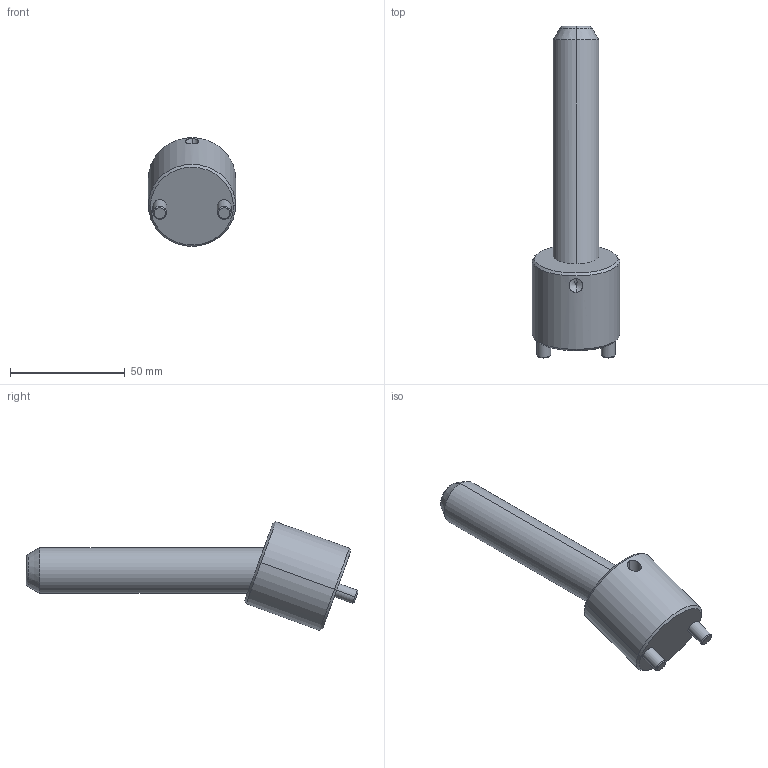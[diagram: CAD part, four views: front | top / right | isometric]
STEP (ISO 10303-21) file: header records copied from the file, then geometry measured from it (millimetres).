
FILE_DESCRIPTION(('CATIA V5 STEP Exchange'),'2;1');
FILE_NAME('C:\Users\Raffaele\Desktop\3D BOLEX\3D FILES CF BOLEX\19-INCLINED ASSEMBLY REF_CI\CI2020100.stp','2019-06-24T06:41:38+00:00',('none'),('none'),'CATIA Version 5 Release 20 GA (IN-10)','CATIA V5 STEP AP203','none');
FILE_SCHEMA(('CONFIG_CONTROL_DESIGN'));
Length unit declared in the file: millimetre
Products named in the file (1): CI2020100
Assembly tree (2 placements, depth 2):
  CI2020100
    #58
    #572
Bounding box: 38 x 144.51 x 47.34 mm (x, y, z)
Volume: 71547.5 mm3; surface area: 17412.5 mm2
Topology: 2 solids, 2 shells, 39 faces, 82 edges, 47 vertices
Faces by surface type: cone 14, cylinder 14, plane 7, torus 4
Entity records: 1515 total; most frequent: CARTESIAN_POINT 658, ORIENTED_EDGE 160, DIRECTION 144, EDGE_CURVE 80, AXIS2_PLACEMENT_3D 71, VERTEX_POINT 47, EDGE_LOOP 43, ADVANCED_FACE 39
